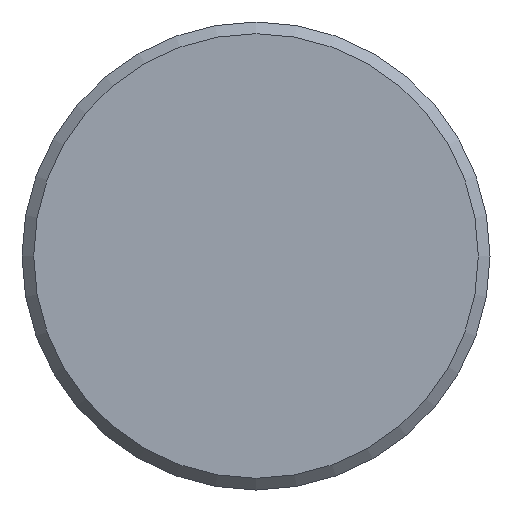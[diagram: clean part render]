
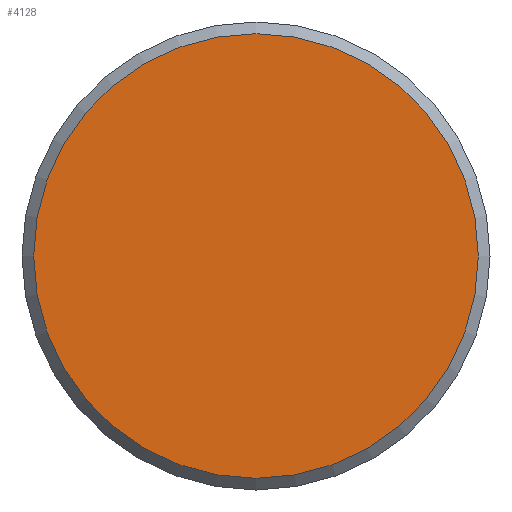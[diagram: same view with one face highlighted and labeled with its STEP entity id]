
A CAD part, left-side view. The second image highlights one B-rep face of the part: STEP entity #4128.
In plain terms, the highlighted planar face has unit normal (-1, 0, 0).
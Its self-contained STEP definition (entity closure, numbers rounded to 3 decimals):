
#1485=PLANE('',#3798);
#1539=ORIENTED_EDGE('',*,*,#2097,.F.);
#1817=CIRCLE('',#3797,9.5);
#1957=VERTEX_POINT('',#3373);
#2097=EDGE_CURVE('',#1957,#1957,#1817,.T.);
#2239=EDGE_LOOP('',(#1539));
#2519=FACE_BOUND('',#2239,.T.);
#2803=DIRECTION('',(1.,0.,0.));
#2804=DIRECTION('',(0.,-9.5,0.));
#2805=DIRECTION('',(-1.,0.,0.));
#2806=DIRECTION('',(0.,1.,0.));
#3373=CARTESIAN_POINT('',(14.822,147.472,0.));
#3374=CARTESIAN_POINT('',(14.822,156.972,0.));
#3375=CARTESIAN_POINT('',(14.822,156.972,0.));
#3797=AXIS2_PLACEMENT_3D('',#3374,#2803,#2804);
#3798=AXIS2_PLACEMENT_3D('',#3375,#2805,#2806);
#4128=ADVANCED_FACE('',(#2519),#1485,.T.);
